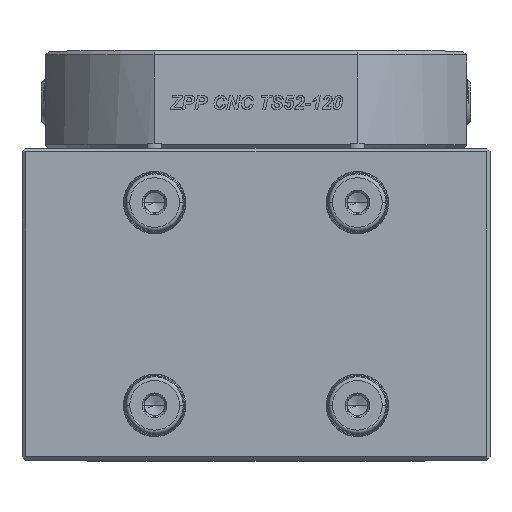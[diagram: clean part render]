
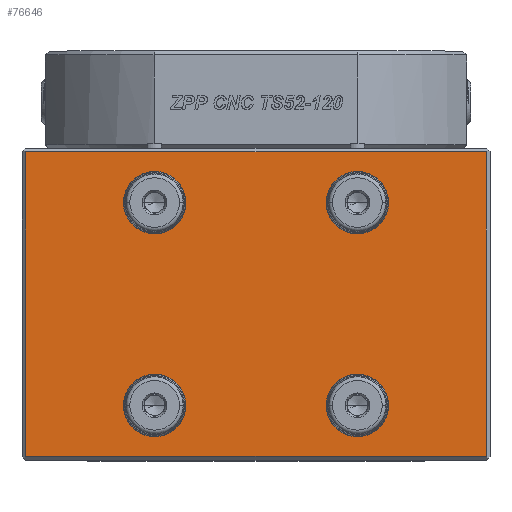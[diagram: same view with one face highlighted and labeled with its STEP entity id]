
A CAD part, top view. The second image highlights one B-rep face of the part: STEP entity #76646.
In plain terms, the highlighted planar face has unit normal (0, 0, 1).
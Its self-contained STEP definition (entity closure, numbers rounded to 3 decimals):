
#25584=DIRECTION('',(1.,0.,0.));
#25585=VECTOR('',#25584,118.);
#25586=CARTESIAN_POINT('',(-59.,-1.,100.));
#25587=LINE('',#25586,#25585);
#25588=DIRECTION('',(0.,1.,0.));
#25589=VECTOR('',#25588,78.);
#25590=CARTESIAN_POINT('',(59.,-79.,100.));
#25591=LINE('',#25590,#25589);
#25592=DIRECTION('',(-1.,0.,0.));
#25593=VECTOR('',#25592,118.);
#25594=CARTESIAN_POINT('',(59.,-79.,100.));
#25595=LINE('',#25594,#25593);
#25596=DIRECTION('',(0.,1.,0.));
#25597=VECTOR('',#25596,78.);
#25598=CARTESIAN_POINT('',(-59.,-79.,100.));
#25599=LINE('',#25598,#25597);
#25600=CARTESIAN_POINT('',(26.,-66.,100.));
#25601=DIRECTION('',(0.,0.,-1.));
#25602=DIRECTION('',(1.,0.,0.));
#25603=AXIS2_PLACEMENT_3D('',#25600,#25601,#25602);
#25605=CARTESIAN_POINT('',(26.,-66.,100.));
#25606=DIRECTION('',(0.,0.,-1.));
#25607=DIRECTION('',(-1.,0.,0.));
#25608=AXIS2_PLACEMENT_3D('',#25605,#25606,#25607);
#25610=CARTESIAN_POINT('',(26.,-14.,100.));
#25611=DIRECTION('',(0.,0.,-1.));
#25612=DIRECTION('',(1.,0.,0.));
#25613=AXIS2_PLACEMENT_3D('',#25610,#25611,#25612);
#25615=CARTESIAN_POINT('',(26.,-14.,100.));
#25616=DIRECTION('',(0.,0.,-1.));
#25617=DIRECTION('',(-1.,0.,0.));
#25618=AXIS2_PLACEMENT_3D('',#25615,#25616,#25617);
#25620=CARTESIAN_POINT('',(-26.,-14.,100.));
#25621=DIRECTION('',(0.,0.,-1.));
#25622=DIRECTION('',(1.,0.,0.));
#25623=AXIS2_PLACEMENT_3D('',#25620,#25621,#25622);
#25625=CARTESIAN_POINT('',(-26.,-14.,100.));
#25626=DIRECTION('',(0.,0.,-1.));
#25627=DIRECTION('',(-1.,0.,0.));
#25628=AXIS2_PLACEMENT_3D('',#25625,#25626,#25627);
#25630=CARTESIAN_POINT('',(-26.,-66.,100.));
#25631=DIRECTION('',(0.,0.,-1.));
#25632=DIRECTION('',(1.,0.,0.));
#25633=AXIS2_PLACEMENT_3D('',#25630,#25631,#25632);
#25635=CARTESIAN_POINT('',(-26.,-66.,100.));
#25636=DIRECTION('',(0.,0.,-1.));
#25637=DIRECTION('',(-1.,0.,0.));
#25638=AXIS2_PLACEMENT_3D('',#25635,#25636,#25637);
#35570=CARTESIAN_POINT('',(-59.,-1.,100.));
#35571=CARTESIAN_POINT('',(59.,-1.,100.));
#35572=VERTEX_POINT('',#35570);
#35573=VERTEX_POINT('',#35571);
#35580=CARTESIAN_POINT('',(-59.,-79.,100.));
#35581=VERTEX_POINT('',#35580);
#35584=CARTESIAN_POINT('',(59.,-79.,100.));
#35585=VERTEX_POINT('',#35584);
#37848=CARTESIAN_POINT('',(33.498,-66.,100.));
#37849=CARTESIAN_POINT('',(18.502,-66.,100.));
#37850=VERTEX_POINT('',#37848);
#37851=VERTEX_POINT('',#37849);
#37990=CARTESIAN_POINT('',(33.498,-14.,100.));
#37991=CARTESIAN_POINT('',(18.502,-14.,100.));
#37992=VERTEX_POINT('',#37990);
#37993=VERTEX_POINT('',#37991);
#38132=CARTESIAN_POINT('',(-18.502,-14.,100.));
#38133=CARTESIAN_POINT('',(-33.498,-14.,100.));
#38134=VERTEX_POINT('',#38132);
#38135=VERTEX_POINT('',#38133);
#38274=CARTESIAN_POINT('',(-18.502,-66.,100.));
#38275=CARTESIAN_POINT('',(-33.498,-66.,100.));
#38276=VERTEX_POINT('',#38274);
#38277=VERTEX_POINT('',#38275);
#76611=CARTESIAN_POINT('',(60.,0.,100.));
#76612=DIRECTION('',(0.,0.,1.));
#76613=DIRECTION('',(-1.,0.,0.));
#76614=AXIS2_PLACEMENT_3D('',#76611,#76612,#76613);
#76615=PLANE('',#76614);
#76616=ORIENTED_EDGE('',*,*,#75253,.T.);
#76617=ORIENTED_EDGE('',*,*,#76487,.F.);
#76618=ORIENTED_EDGE('',*,*,#76518,.T.);
#76619=ORIENTED_EDGE('',*,*,#76554,.T.);
#76620=EDGE_LOOP('',(#76616,#76617,#76618,#76619));
#76621=FACE_OUTER_BOUND('',#76620,.F.);
#76623=ORIENTED_EDGE('',*,*,#76622,.F.);
#76625=ORIENTED_EDGE('',*,*,#76624,.F.);
#76626=EDGE_LOOP('',(#76623,#76625));
#76627=FACE_BOUND('',#76626,.F.);
#76629=ORIENTED_EDGE('',*,*,#76628,.F.);
#76631=ORIENTED_EDGE('',*,*,#76630,.F.);
#76632=EDGE_LOOP('',(#76629,#76631));
#76633=FACE_BOUND('',#76632,.F.);
#76635=ORIENTED_EDGE('',*,*,#76634,.F.);
#76637=ORIENTED_EDGE('',*,*,#76636,.F.);
#76638=EDGE_LOOP('',(#76635,#76637));
#76639=FACE_BOUND('',#76638,.F.);
#76641=ORIENTED_EDGE('',*,*,#76640,.F.);
#76643=ORIENTED_EDGE('',*,*,#76642,.F.);
#76644=EDGE_LOOP('',(#76641,#76643));
#76645=FACE_BOUND('',#76644,.F.);
#76646=ADVANCED_FACE('',(#76621,#76627,#76633,#76639,#76645),#76615,.T.);
#25604=CIRCLE('',#25603,7.498);
#25609=CIRCLE('',#25608,7.498);
#25614=CIRCLE('',#25613,7.498);
#25619=CIRCLE('',#25618,7.498);
#25624=CIRCLE('',#25623,7.498);
#25629=CIRCLE('',#25628,7.498);
#25634=CIRCLE('',#25633,7.498);
#25639=CIRCLE('',#25638,7.498);
#75253=EDGE_CURVE('',#35572,#35573,#25587,.T.);
#76487=EDGE_CURVE('',#35585,#35573,#25591,.T.);
#76518=EDGE_CURVE('',#35585,#35581,#25595,.T.);
#76554=EDGE_CURVE('',#35581,#35572,#25599,.T.);
#76622=EDGE_CURVE('',#37850,#37851,#25604,.T.);
#76624=EDGE_CURVE('',#37851,#37850,#25609,.T.);
#76628=EDGE_CURVE('',#37992,#37993,#25614,.T.);
#76630=EDGE_CURVE('',#37993,#37992,#25619,.T.);
#76634=EDGE_CURVE('',#38134,#38135,#25624,.T.);
#76636=EDGE_CURVE('',#38135,#38134,#25629,.T.);
#76640=EDGE_CURVE('',#38276,#38277,#25634,.T.);
#76642=EDGE_CURVE('',#38277,#38276,#25639,.T.);
